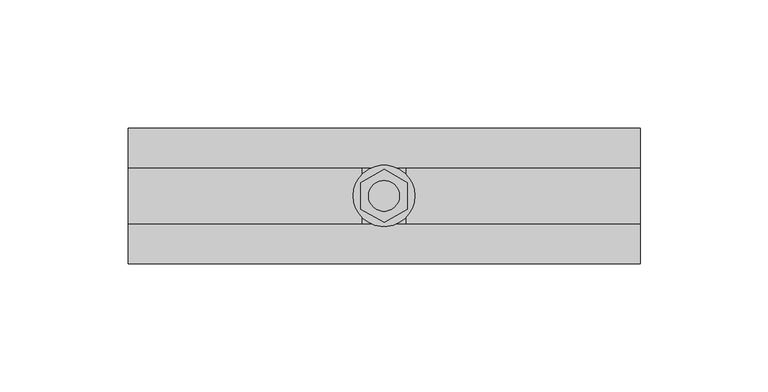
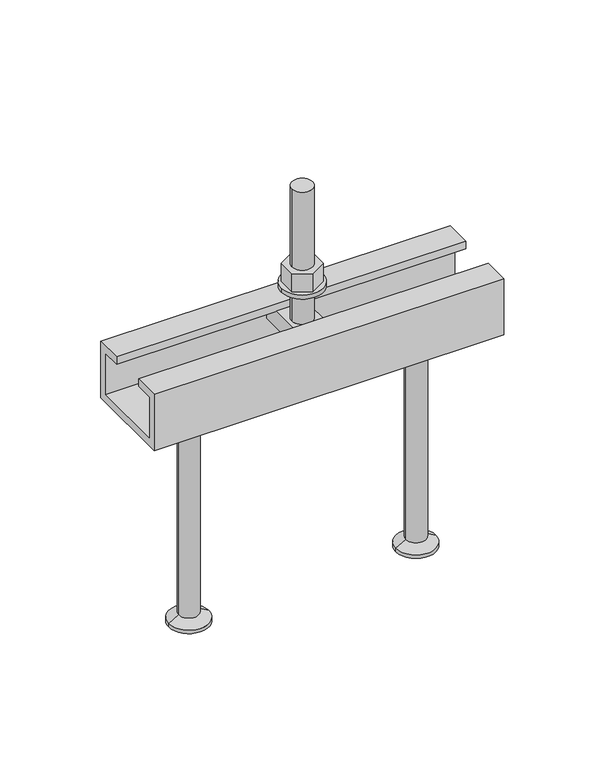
"""IFC4 building model written with IfcOpenShell, lengths in millimetres: fastener geometry, JTA-K JORDAHL® AnchorChannels : JTA-K L=200 mm."""

from ifc_helpers import new_model, si_unit, point, frame, frame_2d, origin, place, context, project, spatial, polyline, circle_curve, trimmed, segment, composite_curve, outline, extrude, source, transform, mapped, element, save
from ifc_brep_helpers import plane_surface, cylinder_surface, revolved_surface, advanced_brep


def fastener_8c3ed580(model_context):
    return source(origin(), model_context, "Body", "SolidModel", [
        extrude(outline(polyline([(100.0, -10.3923048), (91.0, -5.1961524), (91.0, 5.1961524), (100.0, 10.3923048), (109.0, 5.1961524), (109.0, -5.1961524), (100.0, -10.3923048)]), holes=[composite_curve([segment(trimmed(circle_curve(frame_2d((100.0, 0.0)), 6.0), [point((94.0, 0.0))], [point((106.0, 0.0))], True, "CARTESIAN"), True, "CONTINUOUS"), segment(trimmed(circle_curve(frame_2d((100.0, 0.0)), 6.0), [point((106.0, 0.0))], [point((94.0, 0.0))], True, "CARTESIAN"), True, "CONTINUOUS")], self_intersect=False)]), frame((0.0, 0.0, 17.5), z_axis=(0.0, 0.0, 1.0), x_axis=(1.0, 0.0, 0.0)), (0.0, 0.0, 1.0), 10.8),
        extrude(outline(composite_curve([segment(trimmed(circle_curve(frame_2d((100.0, 0.0)), 12.0), [point((88.0, 0.0))], [point((112.0, 0.0))], False, "CARTESIAN"), True, "CONTINUOUS"), segment(trimmed(circle_curve(frame_2d((100.0, 0.0)), 12.0), [point((112.0, 0.0))], [point((88.0, 0.0))], False, "CARTESIAN"), True, "CONTINUOUS")], self_intersect=False), holes=[composite_curve([segment(trimmed(circle_curve(frame_2d((100.0, 0.0)), 6.5), [point((93.5, 0.0))], [point((106.5, 0.0))], True, "CARTESIAN"), True, "CONTINUOUS"), segment(trimmed(circle_curve(frame_2d((100.0, 0.0)), 6.5), [point((106.5, 0.0))], [point((93.5, 0.0))], True, "CARTESIAN"), True, "CONTINUOUS")], self_intersect=False)]), frame((0.0, 0.0, 15.0), z_axis=(0.0, 0.0, 1.0), x_axis=(1.0, 0.0, 0.0)), (0.0, 0.0, 1.0), 2.5),
        advanced_brep(
        [(108.5, -20.7, -4.5), (108.5, -20.7, -14.5), (108.5, 20.7, -14.5), (108.5, 20.7, -4.5), (91.5, -20.7, -4.5), (91.5, 20.7, -4.5), (91.5, 20.7, -14.5), (91.5, -20.7, -14.5), (106.0, 0.0, -4.5), (94.0, 0.0, -4.5), (94.0, 0.0, 75.5), (106.0, 0.0, 75.5)],
        [
            (0, 1),
            (1, 2),
            (2, 3),
            (3, 0),
            (4, 5),
            (5, 6),
            (6, 7),
            (7, 4),
            (3, 5),
            (4, 0),
            (8, 9, circle_curve(frame((100.0, 0.0, -4.5), z_axis=(0.0, 0.0, -1.0), x_axis=(1.0, 0.0, 0.0)), 6.0)),
            (9, 8, circle_curve(frame((100.0, 0.0, -4.5), z_axis=(0.0, 0.0, -1.0), x_axis=(1.0, 0.0, 0.0)), 6.0)),
            (2, 6),
            (1, 7),
            (10, 11, circle_curve(frame((100.0, 0.0, 75.5), z_axis=(0.0, 0.0, 1.0), x_axis=(1.0, 0.0, 0.0)), 6.0)),
            (11, 10, circle_curve(frame((100.0, 0.0, 75.5), z_axis=(0.0, 0.0, 1.0), x_axis=(1.0, 0.0, 0.0)), 6.0)),
            (11, 8),
            (9, 10),
        ],
        [
            plane_surface(frame((108.5, 20.7, -4.5), z_axis=(1.0, 0.0, 0.0), x_axis=(0.0, 1.0, 0.0))),
            plane_surface(frame((91.5, 20.7, -4.5), z_axis=(-1.0, 0.0, 0.0), x_axis=(0.0, -1.0, 0.0))),
            plane_surface(frame((108.5, -20.7, -4.5), z_axis=(0.0, 0.0, 1.0), x_axis=(-1.0, 0.0, 0.0))),
            plane_surface(frame((108.5, 20.7, -4.5), z_axis=(0.0, 1.0, 0.0), x_axis=(-1.0, 0.0, 0.0))),
            plane_surface(frame((108.5, 20.7, -14.5), z_axis=(0.0, 0.0, -1.0), x_axis=(-1.0, 0.0, 0.0))),
            plane_surface(frame((108.5, -20.7, -14.5), z_axis=(0.0, -1.0, 0.0), x_axis=(-1.0, 0.0, 0.0))),
            plane_surface(frame((106.0, 0.0, 75.5), z_axis=(0.0, 0.0, 1.0), x_axis=(0.0, -1.0, 0.0))),
            cylinder_surface(frame((100.0, 0.0, -4.5), z_axis=(0.0, 0.0, 1.0), x_axis=(1.0, 0.0, 0.0)), 6.0),
        ],
        [
            (0, [[1, 2, 3, 4]]),
            (1, [[5, 6, 7, 8]]),
            (2, [[9, -5, 10, -4], [11, 12]]),
            (3, [[13, -6, -9, -3]]),
            (4, [[14, -7, -13, -2]]),
            (5, [[-10, -8, -14, -1]]),
            (6, [[15, 16]]),
            (7, [[17, -12, 18, -16]]),
            (7, [[-18, -11, -17, -15]]),
        ],
    ),
        advanced_brep(
        [(165.0, 0.0, -34.0), (147.5, 0.0, -34.0), (182.5, 0.0, -34.0), (153.5, 0.0, -165.0), (165.0, 0.0, -165.0), (176.5, 0.0, -165.0), (153.5, 0.0, -163.0), (176.5, 0.0, -163.0), (159.2, 0.0, -159.7091035), (170.8, 0.0, -159.7091035), (159.2, 0.0, -37.0), (170.8, 0.0, -37.0)],
        [
            (0, 1),
            (1, 2, circle_curve(frame((165.0, 0.0, -34.0), z_axis=(0.0, 0.0, 1.0), x_axis=(1.0, 0.0, 0.0)), 17.5)),
            (2, 0),
            (2, 1, circle_curve(frame((165.0, 0.0, -34.0), z_axis=(0.0, 0.0, 1.0), x_axis=(1.0, 0.0, 0.0)), 17.5)),
            (3, 4),
            (4, 5),
            (5, 3, circle_curve(frame((165.0, 0.0, -165.0), z_axis=(0.0, 0.0, -1.0), x_axis=(1.0, 0.0, 0.0)), 11.5)),
            (3, 5, circle_curve(frame((165.0, 0.0, -165.0), z_axis=(0.0, 0.0, -1.0), x_axis=(1.0, 0.0, 0.0)), 11.5)),
            (6, 3),
            (5, 7),
            (7, 6, circle_curve(frame((165.0, 0.0, -163.0), z_axis=(0.0, 0.0, -1.0), x_axis=(1.0, 0.0, 0.0)), 11.5)),
            (6, 7, circle_curve(frame((165.0, 0.0, -163.0), z_axis=(0.0, 0.0, -1.0), x_axis=(1.0, 0.0, 0.0)), 11.5)),
            (8, 6),
            (7, 9),
            (9, 8, circle_curve(frame((165.0, 0.0, -159.7091035), z_axis=(0.0, 0.0, -1.0), x_axis=(1.0, 0.0, 0.0)), 5.8)),
            (8, 9, circle_curve(frame((165.0, 0.0, -159.7091035), z_axis=(0.0, 0.0, -1.0), x_axis=(1.0, 0.0, 0.0)), 5.8)),
            (10, 8),
            (9, 11),
            (11, 10, circle_curve(frame((165.0, 0.0, -37.0), z_axis=(0.0, 0.0, -1.0), x_axis=(1.0, 0.0, 0.0)), 5.8)),
            (10, 11, circle_curve(frame((165.0, 0.0, -37.0), z_axis=(0.0, 0.0, -1.0), x_axis=(1.0, 0.0, 0.0)), 5.8)),
            (1, 10),
            (11, 2),
        ],
        [
            plane_surface(frame((165.0, 0.0, -34.0), z_axis=(0.0, 0.0, 1.0), x_axis=(1.0, 0.0, 0.0))),
            plane_surface(frame((165.0, 0.0, -165.0), z_axis=(0.0, 0.0, -1.0), x_axis=(1.0, 0.0, 0.0))),
            cylinder_surface(frame((165.0, 0.0, 2345.3150031), z_axis=(0.0, 0.0, 1.0), x_axis=(1.0, 0.0, 0.0)), 11.5),
            revolved_surface(polyline([(176.5, 0.0, -163.0), (170.8, 0.0, -159.7091035)]), (165.0, 0.0, 2345.3150031), (0.0, 0.0, 1.0)),
            cylinder_surface(frame((165.0, 0.0, 2345.3150031), z_axis=(0.0, 0.0, 1.0), x_axis=(1.0, 0.0, 0.0)), 5.8),
            revolved_surface(polyline([(170.8, 0.0, -37.0), (182.5, 0.0, -34.0)]), (165.0, 0.0, 2345.3150031), (0.0, 0.0, 1.0)),
        ],
        [
            (0, [[1, 2, 3]]),
            (0, [[-3, 4, -1]]),
            (1, [[5, 6, 7]]),
            (1, [[-6, -5, 8]]),
            (2, [[9, -7, 10, 11]]),
            (2, [[-10, -8, -9, 12]]),
            (3, [[13, -11, 14, 15]]),
            (3, [[-14, -12, -13, 16]]),
            (4, [[17, -15, 18, 19]]),
            (4, [[-18, -16, -17, 20]]),
            (5, [[21, -19, 22, -2]]),
            (5, [[-22, -20, -21, -4]]),
        ],
    ),
        advanced_brep(
        [(35.0, 0.0, -34.0), (17.5, 0.0, -34.0), (52.5, 0.0, -34.0), (23.5, 0.0, -165.0), (35.0, 0.0, -165.0), (46.5, 0.0, -165.0), (23.5, 0.0, -163.0), (46.5, 0.0, -163.0), (29.2, 0.0, -159.7091035), (40.8, 0.0, -159.7091035), (29.2, 0.0, -37.0), (40.8, 0.0, -37.0)],
        [
            (0, 1),
            (1, 2, circle_curve(frame((35.0, 0.0, -34.0), z_axis=(0.0, 0.0, 1.0), x_axis=(1.0, 0.0, 0.0)), 17.5)),
            (2, 0),
            (2, 1, circle_curve(frame((35.0, 0.0, -34.0), z_axis=(0.0, 0.0, 1.0), x_axis=(1.0, 0.0, 0.0)), 17.5)),
            (3, 4),
            (4, 5),
            (5, 3, circle_curve(frame((35.0, 0.0, -165.0), z_axis=(0.0, 0.0, -1.0), x_axis=(1.0, 0.0, 0.0)), 11.5)),
            (3, 5, circle_curve(frame((35.0, 0.0, -165.0), z_axis=(0.0, 0.0, -1.0), x_axis=(1.0, 0.0, 0.0)), 11.5)),
            (6, 3),
            (5, 7),
            (7, 6, circle_curve(frame((35.0, 0.0, -163.0), z_axis=(0.0, 0.0, -1.0), x_axis=(1.0, 0.0, 0.0)), 11.5)),
            (6, 7, circle_curve(frame((35.0, 0.0, -163.0), z_axis=(0.0, 0.0, -1.0), x_axis=(1.0, 0.0, 0.0)), 11.5)),
            (8, 6),
            (7, 9),
            (9, 8, circle_curve(frame((35.0, 0.0, -159.7091035), z_axis=(0.0, 0.0, -1.0), x_axis=(1.0, 0.0, 0.0)), 5.8)),
            (8, 9, circle_curve(frame((35.0, 0.0, -159.7091035), z_axis=(0.0, 0.0, -1.0), x_axis=(1.0, 0.0, 0.0)), 5.8)),
            (10, 8),
            (9, 11),
            (11, 10, circle_curve(frame((35.0, 0.0, -37.0), z_axis=(0.0, 0.0, -1.0), x_axis=(1.0, 0.0, 0.0)), 5.8)),
            (10, 11, circle_curve(frame((35.0, 0.0, -37.0), z_axis=(0.0, 0.0, -1.0), x_axis=(1.0, 0.0, 0.0)), 5.8)),
            (1, 10),
            (11, 2),
        ],
        [
            plane_surface(frame((35.0, 0.0, -34.0), z_axis=(0.0, 0.0, 1.0), x_axis=(1.0, 0.0, 0.0))),
            plane_surface(frame((35.0, 0.0, -165.0), z_axis=(0.0, 0.0, -1.0), x_axis=(1.0, 0.0, 0.0))),
            cylinder_surface(frame((35.0, 0.0, 2345.3150031), z_axis=(0.0, 0.0, 1.0), x_axis=(1.0, 0.0, 0.0)), 11.5),
            revolved_surface(polyline([(46.5, 0.0, -163.0), (40.8, 0.0, -159.7091035)]), (35.0, 0.0, 2345.3150031), (0.0, 0.0, 1.0)),
            cylinder_surface(frame((35.0, 0.0, 2345.3150031), z_axis=(0.0, 0.0, 1.0), x_axis=(1.0, 0.0, 0.0)), 5.8),
            revolved_surface(polyline([(40.8, 0.0, -37.0), (52.5, 0.0, -34.0)]), (35.0, 0.0, 2345.3150031), (0.0, 0.0, 1.0)),
        ],
        [
            (0, [[1, 2, 3]]),
            (0, [[-3, 4, -1]]),
            (1, [[5, 6, 7]]),
            (1, [[-6, -5, 8]]),
            (2, [[9, -7, 10, 11]]),
            (2, [[-10, -8, -9, 12]]),
            (3, [[13, -11, 14, 15]]),
            (3, [[-14, -12, -13, 16]]),
            (4, [[17, -15, 18, 19]]),
            (4, [[-18, -16, -17, 20]]),
            (5, [[21, -19, 22, -2]]),
            (5, [[-22, -20, -21, -4]]),
        ],
    ),
        extrude(outline(polyline([(-26.5, 0.0), (-11.0, 0.0), (-11.0, -4.5), (-22.0, -4.5), (-22.0, -29.5), (22.0, -29.5), (22.0, -4.5), (11.0, -4.5), (11.0, 0.0), (26.5, 0.0), (26.5, -34.0), (-26.5, -34.0), (-26.5, 0.0)])), frame((0.0, 0.0, 0.0), z_axis=(1.0, 0.0, 0.0), x_axis=(0.0, 1.0, 0.0)), (0.0, 0.0, 1.0), 200.0),
    ])


if __name__ == "__main__":
    model = new_model("IFC4")
    model_context = context("Model", 3, world=origin())
    ifc_project = project(units=[si_unit("LENGTHUNIT", "METRE", prefix="MILLI")], contexts=[model_context])
    site = spatial("IfcSite", under=ifc_project)
    building = spatial("IfcBuilding", under=site)
    placement = place(None, origin())
    fastener_shape = fastener_8c3ed580(model_context)
    element("IfcFastener", 1, ObjectType="JTA-K JORDAHL® AnchorChannels : JTA-K L=200 mm", at=placement, inside=building, context=model_context, shape_type="MappedRepresentation", body=[
        mapped(fastener_shape, transform((0.0, 0.0, 0.0), x_axis=(1.0, 0.0, 0.0), y_axis=(0.0, 1.0, 0.0), z_axis=(0.0, 0.0, 1.0))),
    ])
    save(model, "model.ifc")
